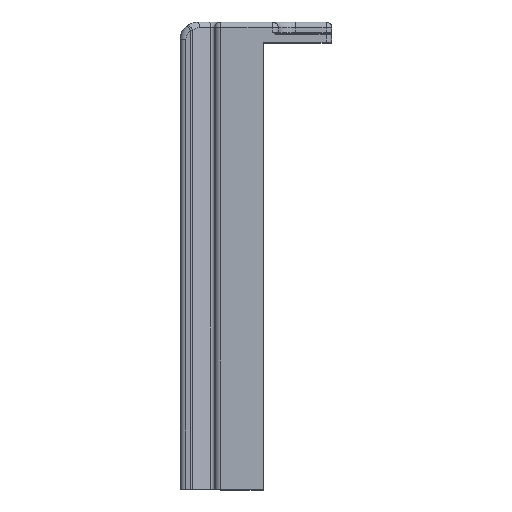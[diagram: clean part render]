
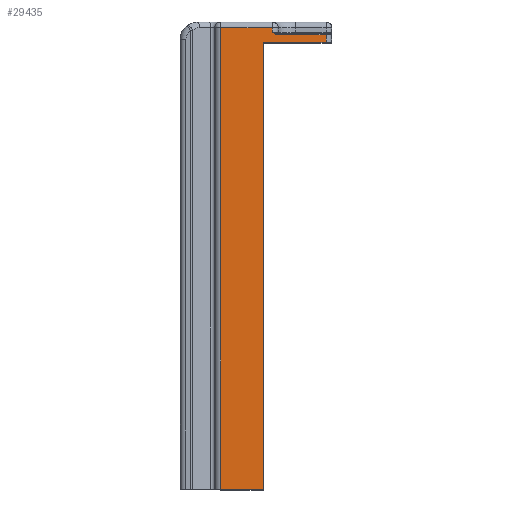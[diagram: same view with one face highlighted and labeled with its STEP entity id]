
A CAD part, top view. The second image highlights one B-rep face of the part: STEP entity #29435.
In plain terms, the highlighted planar face has unit normal (0, 0, 1).
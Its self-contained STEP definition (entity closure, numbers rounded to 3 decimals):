
#9348=DIRECTION('',(0.,1.,0.));
#9349=VECTOR('',#9348,0.8);
#9350=CARTESIAN_POINT('',(-64.,31.7,45.));
#9351=LINE('',#9350,#9349);
#9352=CARTESIAN_POINT('',(-63.702,31.5,45.));
#9353=CARTESIAN_POINT('',(-63.675,31.484,45.));
#9354=CARTESIAN_POINT('',(-63.618,31.45,45.));
#9355=CARTESIAN_POINT('',(-63.52,31.4,45.));
#9356=CARTESIAN_POINT('',(-63.406,31.353,45.));
#9357=CARTESIAN_POINT('',(-63.271,31.314,45.));
#9358=CARTESIAN_POINT('',(-63.163,31.3,45.));
#9359=CARTESIAN_POINT('',(-63.106,31.3,45.));
#9361=DIRECTION('',(1.,0.,0.));
#9362=VECTOR('',#9361,8.406);
#9363=CARTESIAN_POINT('',(-63.106,31.3,45.));
#9364=LINE('',#9363,#9362);
#9365=DIRECTION('',(0.,1.,0.));
#9366=VECTOR('',#9365,1.3);
#9367=CARTESIAN_POINT('',(-54.7,30.,45.));
#9368=LINE('',#9367,#9366);
#9369=DIRECTION('',(1.,0.,0.));
#9370=VECTOR('',#9369,10.9);
#9371=CARTESIAN_POINT('',(-65.6,30.,45.));
#9372=LINE('',#9371,#9370);
#9373=DIRECTION('',(0.,1.,0.));
#9374=VECTOR('',#9373,77.5);
#9375=CARTESIAN_POINT('',(-65.6,-47.5,45.));
#9376=LINE('',#9375,#9374);
#9377=DIRECTION('',(-1.,0.,0.));
#9378=VECTOR('',#9377,7.4);
#9379=CARTESIAN_POINT('',(-65.6,-47.5,45.));
#9380=LINE('',#9379,#9378);
#9381=DIRECTION('',(0.,-1.,0.));
#9382=VECTOR('',#9381,80.);
#9383=CARTESIAN_POINT('',(-73.,32.5,45.));
#9384=LINE('',#9383,#9382);
#9385=DIRECTION('',(-1.,0.,0.));
#9386=VECTOR('',#9385,9.);
#9387=CARTESIAN_POINT('',(-64.,32.5,45.));
#9388=LINE('',#9387,#9386);
#11361=CARTESIAN_POINT('',(-64.,31.7,45.));
#11362=CARTESIAN_POINT('',(-63.973,31.681,
45.));
#11363=CARTESIAN_POINT('',(-63.919,31.643,
45.));
#11364=CARTESIAN_POINT('',(-63.843,31.59,
45.));
#11365=CARTESIAN_POINT('',(-63.771,31.543,
45.));
#11366=CARTESIAN_POINT('',(-63.725,31.514,
45.));
#11367=CARTESIAN_POINT('',(-63.702,31.5,45.));
#18217=CARTESIAN_POINT('',(-65.6,-47.5,45.));
#18218=VERTEX_POINT('',#18217);
#18223=CARTESIAN_POINT('',(-65.6,30.,45.));
#18224=VERTEX_POINT('',#18223);
#18638=CARTESIAN_POINT('',(-64.,31.7,45.));
#18640=VERTEX_POINT('',#18638);
#18649=CARTESIAN_POINT('',(-63.106,31.3,
45.));
#18650=VERTEX_POINT('',#18649);
#18840=CARTESIAN_POINT('',(-73.,-47.5,45.));
#18842=VERTEX_POINT('',#18840);
#18846=CARTESIAN_POINT('',(-64.,32.5,45.));
#18847=VERTEX_POINT('',#18846);
#18924=CARTESIAN_POINT('',(-73.,32.5,45.));
#18925=VERTEX_POINT('',#18924);
#19125=CARTESIAN_POINT('',(-54.7,30.,45.));
#19127=VERTEX_POINT('',#19125);
#19148=CARTESIAN_POINT('',(-54.7,31.3,45.));
#19149=VERTEX_POINT('',#19148);
#19318=VERTEX_POINT('',#9352);
#29411=CARTESIAN_POINT('',(0.,0.,45.));
#29412=DIRECTION('',(0.,0.,1.));
#29413=DIRECTION('',(1.,0.,0.));
#29414=AXIS2_PLACEMENT_3D('',#29411,#29412,#29413);
#29415=PLANE('',#29414);
#29417=ORIENTED_EDGE('',*,*,#29416,.F.);
#29419=ORIENTED_EDGE('',*,*,#29418,.T.);
#29421=ORIENTED_EDGE('',*,*,#29420,.T.);
#29423=ORIENTED_EDGE('',*,*,#29422,.T.);
#29425=ORIENTED_EDGE('',*,*,#29424,.F.);
#29426=ORIENTED_EDGE('',*,*,#23198,.F.);
#29427=ORIENTED_EDGE('',*,*,#29406,.F.);
#29428=ORIENTED_EDGE('',*,*,#29067,.T.);
#29430=ORIENTED_EDGE('',*,*,#29429,.F.);
#29432=ORIENTED_EDGE('',*,*,#29431,.F.);
#29433=EDGE_LOOP('',(#29417,#29419,#29421,#29423,#29425,#29426,#29427,#29428,
#29430,#29432));
#29434=FACE_OUTER_BOUND('',#29433,.F.);
#29435=ADVANCED_FACE('',(#29434),#29415,.T.);
#9360=B_SPLINE_CURVE_WITH_KNOTS('',3,(#9352,#9353,#9354,#9355,#9356,#9357,#9358,
#9359),.UNSPECIFIED.,.F.,.F.,(4,1,1,1,1,4),(0.,0.2,0.4,0.6,0.8,1.),
.UNSPECIFIED.);
#11368=B_SPLINE_CURVE_WITH_KNOTS('',3,(#11361,#11362,#11363,#11364,#11365,
#11366,#11367),.UNSPECIFIED.,.F.,.F.,(4,1,1,1,4),(0.,0.25,0.5,0.75,
1.),.UNSPECIFIED.);
#23198=EDGE_CURVE('',#18224,#19127,#9372,.T.);
#29067=EDGE_CURVE('',#18218,#18842,#9380,.T.);
#29406=EDGE_CURVE('',#18218,#18224,#9376,.T.);
#29416=EDGE_CURVE('',#18640,#18847,#9351,.T.);
#29418=EDGE_CURVE('',#18640,#19318,#11368,.T.);
#29420=EDGE_CURVE('',#19318,#18650,#9360,.T.);
#29422=EDGE_CURVE('',#18650,#19149,#9364,.T.);
#29424=EDGE_CURVE('',#19127,#19149,#9368,.T.);
#29429=EDGE_CURVE('',#18925,#18842,#9384,.T.);
#29431=EDGE_CURVE('',#18847,#18925,#9388,.T.);
